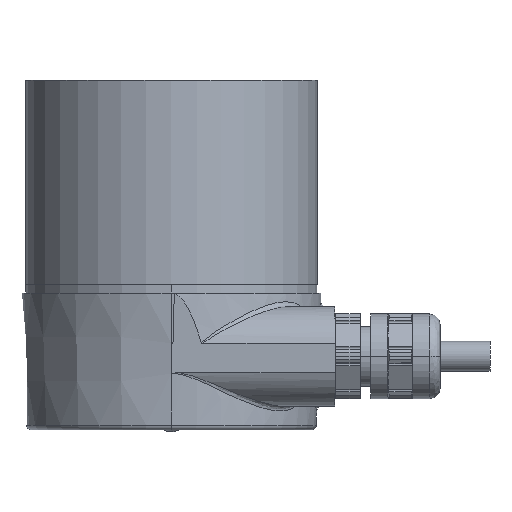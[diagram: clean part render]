
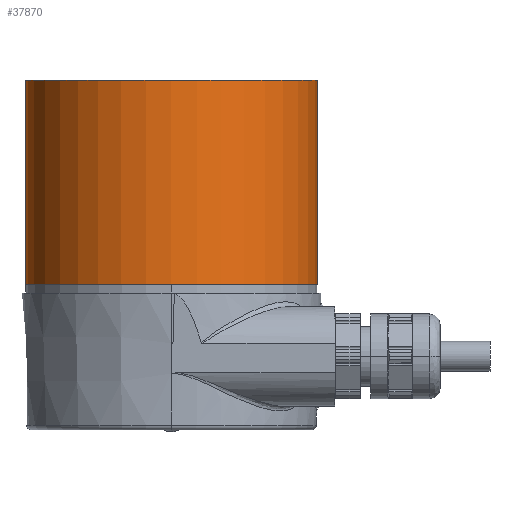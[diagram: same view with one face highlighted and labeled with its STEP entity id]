
A CAD part, left-side view. The second image highlights one B-rep face of the part: STEP entity #37870.
In plain terms, the highlighted cylindrical face has radius 29.3 mm (diameter 58.6 mm), a partial arc.
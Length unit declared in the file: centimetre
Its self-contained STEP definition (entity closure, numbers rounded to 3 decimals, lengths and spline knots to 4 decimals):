
#8532 = CARTESIAN_POINT ( 'NONE',  ( 0., 0., 2.93 ) ) ;
#8552 = CARTESIAN_POINT ( 'NONE',  ( 0., 4.1, 2.93 ) ) ;
#8553 = LINE ( 'NONE', #8552, #8635 ) ;
#8628 = CARTESIAN_POINT ( 'NONE',  ( 0., 0., -2.93 ) ) ;
#8634 = DIRECTION ( 'NONE',  ( 0., -1., 0. ) ) ;
#8635 = VECTOR ( 'NONE', #8634, 100. ) ;
#8670 = DIRECTION ( 'NONE',  ( 0., 0., 1. ) ) ;
#8671 = DIRECTION ( 'NONE',  ( 0., 1., 0. ) ) ;
#8672 = CARTESIAN_POINT ( 'NONE',  ( 0., 0., 0. ) ) ;
#8673 = AXIS2_PLACEMENT_3D ( 'NONE', #8672, #8671, #8670 ) ;
#8674 = CIRCLE ( 'NONE', #8673, 2.93 ) ;
#12392 = DIRECTION ( 'NONE',  ( 0., 0., 1. ) ) ;
#12393 = DIRECTION ( 'NONE',  ( 0., 1., 0. ) ) ;
#12394 = AXIS2_PLACEMENT_3D ( 'NONE', #12404, #12393, #12392 ) ;
#12396 = CIRCLE ( 'NONE', #12394, 2.93 ) ;
#12404 = CARTESIAN_POINT ( 'NONE',  ( 0., 4.1, 0. ) ) ;
#12446 = CARTESIAN_POINT ( 'NONE',  ( 0., 4.1, 2.93 ) ) ;
#12460 = CARTESIAN_POINT ( 'NONE',  ( 0., 4.1, -2.93 ) ) ;
#12544 = DIRECTION ( 'NONE',  ( 0., -1., 0. ) ) ;
#12545 = VECTOR ( 'NONE', #12544, 100. ) ;
#12547 = CARTESIAN_POINT ( 'NONE',  ( 0., 4.1, -2.93 ) ) ;
#12548 = LINE ( 'NONE', #12547, #12545 ) ;
#12567 = DIRECTION ( 'NONE',  ( 0., 0., -1. ) ) ;
#12568 = DIRECTION ( 'NONE',  ( 0., -1., 0. ) ) ;
#12569 = CARTESIAN_POINT ( 'NONE',  ( 0., 4.1, 0. ) ) ;
#12570 = AXIS2_PLACEMENT_3D ( 'NONE', #12569, #12568, #12567 ) ;
#12571 = CYLINDRICAL_SURFACE ( 'NONE', #12570, 2.93 ) ;
#12572 = FACE_OUTER_BOUND ( 'NONE', #38788, .T. ) ;
#36002 = VERTEX_POINT ( 'NONE', #8532 ) ;
#36012 = EDGE_CURVE ( 'NONE', #37826, #36002, #8553, .T. ) ;
#36013 = ORIENTED_EDGE ( 'NONE', *, *, #36012, .T. ) ;
#36019 = VERTEX_POINT ( 'NONE', #8628 ) ;
#36030 = EDGE_CURVE ( 'NONE', #36002, #36019, #8674, .T. ) ;
#36032 = ORIENTED_EDGE ( 'NONE', *, *, #36030, .T. ) ;
#37819 = EDGE_CURVE ( 'NONE', #37826, #37820, #12396, .T. ) ;
#37820 = VERTEX_POINT ( 'NONE', #12460 ) ;
#37826 = VERTEX_POINT ( 'NONE', #12446 ) ;
#37837 = EDGE_CURVE ( 'NONE', #37820, #36019, #12548, .T. ) ;
#37864 = ORIENTED_EDGE ( 'NONE', *, *, #37837, .F. ) ;
#37870 = ADVANCED_FACE ( 'NONE', ( #12572 ), #12571, .T. ) ;
#37881 = ORIENTED_EDGE ( 'NONE', *, *, #37819, .F. ) ;
#38788 = EDGE_LOOP ( 'NONE', ( #37881, #36013, #36032, #37864 ) ) ;
